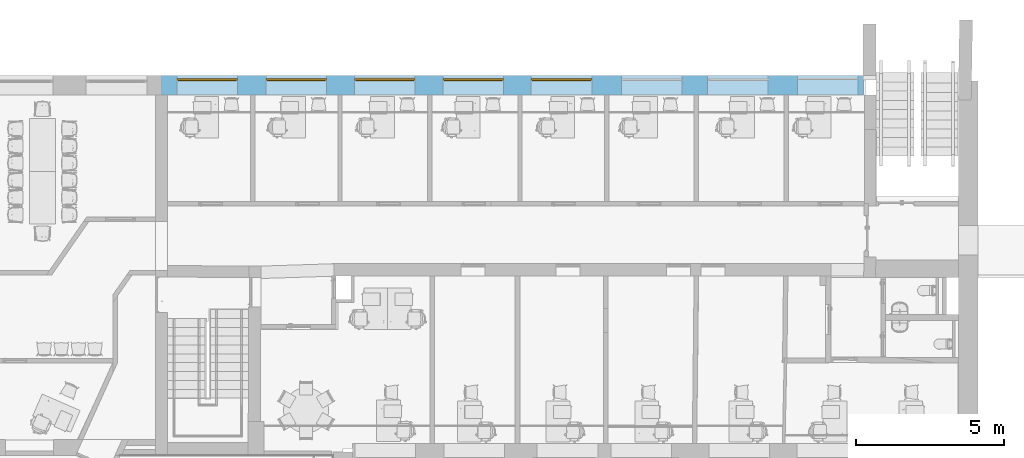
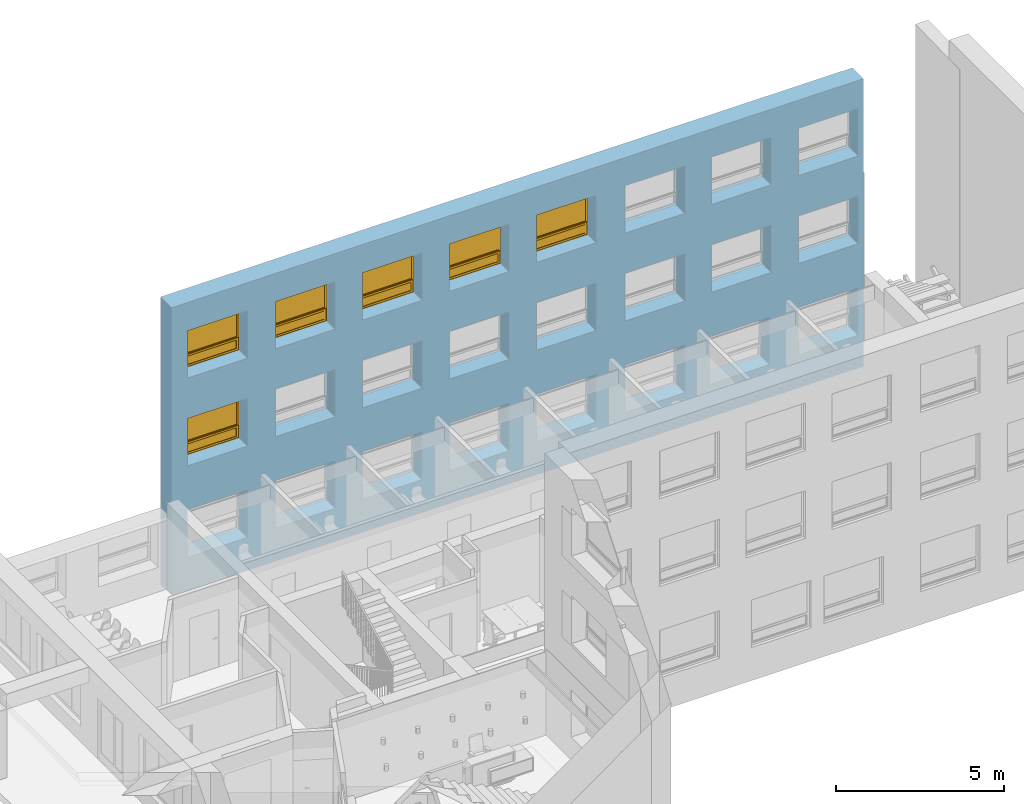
"""IFC2X3 building model written with IfcOpenShell, lengths in millimetres."""

from ifc_helpers import new_model, entity, si_unit, converted_unit, derived_unit, direction, frame, frame_2d, origin, place, context, subcontext, project, spatial, rectangle, extrude, faceted_brep, source, transform, mapped, material, material_list, layer, layer_set, layer_usage, type_object, type_shapes, element, fill, save


model = new_model("IFC2X3")

# Units and contexts
model_context = context("Model", 3, precision=0.01, world=origin(), true_north=direction((6.12303176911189e-17, 1.0)))
context_of_model = context(None, 3, precision=0.01, world=origin(), true_north=direction((6.12303176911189e-17, 1.0)))
body_context = subcontext(model_context, "Body", "Model", "MODEL_VIEW")
ifc_project = project(units=[si_unit("LENGTHUNIT", "METRE", prefix="MILLI"), si_unit("AREAUNIT", "SQUARE_METRE"), si_unit("VOLUMEUNIT", "CUBIC_METRE"), converted_unit("PLANEANGLEUNIT", "DEGREE", entity("IfcRatioMeasure", 0.0174532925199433), si_unit("PLANEANGLEUNIT", "RADIAN"), dimensions=[0, 0, 0, 0, 0, 0, 0]), si_unit("MASSUNIT", "GRAM", prefix="KILO"), derived_unit("MASSDENSITYUNIT", [(si_unit("MASSUNIT", "GRAM", prefix="KILO"), 1), (si_unit("LENGTHUNIT", "METRE"), -3)]), si_unit("TIMEUNIT", "SECOND"), si_unit("FREQUENCYUNIT", "HERTZ"), si_unit("THERMODYNAMICTEMPERATUREUNIT", "DEGREE_CELSIUS"), derived_unit("THERMALTRANSMITTANCEUNIT", [(si_unit("MASSUNIT", "GRAM", prefix="KILO"), 1), (si_unit("THERMODYNAMICTEMPERATUREUNIT", "KELVIN"), -1), (si_unit("TIMEUNIT", "SECOND"), -3)]), derived_unit("VOLUMETRICFLOWRATEUNIT", [(si_unit("LENGTHUNIT", "METRE"), 3), (si_unit("TIMEUNIT", "SECOND"), -1)]), si_unit("ELECTRICCURRENTUNIT", "AMPERE"), si_unit("ELECTRICVOLTAGEUNIT", "VOLT"), si_unit("POWERUNIT", "WATT"), si_unit("FORCEUNIT", "NEWTON", prefix="KILO"), si_unit("ILLUMINANCEUNIT", "LUX"), si_unit("LUMINOUSFLUXUNIT", "LUMEN"), si_unit("LUMINOUSINTENSITYUNIT", "CANDELA"), derived_unit("USERDEFINED", [(si_unit("MASSUNIT", "GRAM", prefix="KILO"), -1), (si_unit("LENGTHUNIT", "METRE"), -2), (si_unit("TIMEUNIT", "SECOND"), 3), (si_unit("LUMINOUSFLUXUNIT", "LUMEN"), 1)]), derived_unit("LINEARVELOCITYUNIT", [(si_unit("LENGTHUNIT", "METRE"), 1), (si_unit("TIMEUNIT", "SECOND"), -1)]), si_unit("PRESSUREUNIT", "PASCAL"), derived_unit("USERDEFINED", [(si_unit("LENGTHUNIT", "METRE"), -2), (si_unit("MASSUNIT", "GRAM", prefix="KILO"), 1), (si_unit("TIMEUNIT", "SECOND"), -2)])], contexts=[model_context, context_of_model])

# Site, building, storey
site_placement = place(None, frame((121442.264707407, 135347.995453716, -1800.0)))
site = spatial("IfcSite", under=ifc_project, at=site_placement, Name="Surface", CompositionType="ELEMENT")
building_placement = place(site_placement, origin())
building = spatial("IfcBuilding", under=site, at=building_placement, CompositionType="ELEMENT")
storey_1_placement = place(building_placement, frame((0.0, 0.0, 1800.0)))
storey_1 = spatial("IfcBuildingStorey", under=building, at=storey_1_placement, Name="1 korrus", CompositionType="ELEMENT", Elevation=1800.00000000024)

# Wall, openings
ifc_material_1 = material(Name="Plaster")
ifc_layer_1 = layer(ifc_material_1, 10.0)
ifc_material_2 = material(Name="Polystyrene")
ifc_layer_2 = layer(ifc_material_2, 150.0)
ifc_material_3 = material(Name="__Betoonelement")
ifc_layer_3 = layer(ifc_material_3, 500.0)
ifc_layer_set = layer_set([ifc_layer_1, ifc_layer_2, ifc_layer_3], Name="Basic Wall:Olemasolev Soojustatud Välissein")
ifc_layer_usage = layer_usage(ifc_layer_set, "AXIS2", "POSITIVE", -330.0)
wall_type = type_object("IfcWallType", Name="Basic Wall:Olemasolev Soojustatud Välissein", PredefinedType="STANDARD", material=ifc_layer_set)
wall_placement = place(storey_1_placement, frame((-85315.1914993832, -115011.919112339, -300.0), z_axis=(0.0, 0.0, 1.0), x_axis=(-1.0, 0.0, 0.0)))
wall = element("IfcWallStandardCase", 1, at=wall_placement, inside=storey_1, type_object=wall_type, material=ifc_layer_usage, Name="Basic Wall:Olemasolev Soojustatud Välissein", ObjectType="Basic Wall:Olemasolev Soojustatud Välissein", context=body_context, shape_type="SweptSolid", body=[
    extrude(rectangle(XDim=23782.0031187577, YDim=660.000000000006, at=frame_2d((12319.7873212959, -8.66862137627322e-12), x_axis=(-1.0, 0.0))), origin(), (0.0, 0.0, 1.0), 10460.0),
])
opening_1_placement = place(wall_placement, origin())
element("IfcOpeningElement", 2, at=opening_1_placement, cuts=wall, Name="Basic Wall:Olemasolev Soojustatud Välissein", ObjectType="Opening", context=body_context, shape_type="SweptSolid", body=[
    extrude(rectangle(XDim=1600.0, YDim=2050.0, at=frame_2d((-8.64019966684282e-12, 2.27373675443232e-13), x_axis=(0.0, 1.0))), frame((25702.8256414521, -1184.0, 2000.0), z_axis=(0.0, 1.0, 0.0), x_axis=(-1.0, 0.0, 0.0)), (0.0, 0.0, 1.0), 3048.0),
])
opening_2_placement = place(wall_placement, frame((23657.8256414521, 330.0, 1200.0)))
element("IfcOpeningElement", 3, at=opening_2_placement, cuts=wall, Name="sma_W2:A-1* 2050 x 1730mm Avatav:1", ObjectType="Opening", context=body_context, shape_type="SweptSolid", body=[
    extrude(rectangle(XDim=1730.0, YDim=2050.0, at=frame_2d((865.0, 1025.0), x_axis=(1.0, 0.0))), frame((0.0, 0.0, 0.0), z_axis=(0.0, -1.0, 0.0), x_axis=(0.0, 0.0, 1.0)), (0.0, 0.0, 1.0), 660.0),
])
opening_3_placement = place(wall_placement, frame((17649.9096963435, 330.0, 1200.0)))
element("IfcOpeningElement", 4, at=opening_3_placement, cuts=wall, Name="sma_W2:A-1* 2050 x 1730mm Avatav:1", ObjectType="Opening", context=body_context, shape_type="SweptSolid", body=[
    extrude(rectangle(XDim=1730.0, YDim=2050.0, at=frame_2d((865.0, 1025.0), x_axis=(1.0, 0.0))), frame((0.0, 0.0, 0.0), z_axis=(0.0, -1.0, 0.0), x_axis=(0.0, 0.0, 1.0)), (0.0, 0.0, 1.0), 660.0),
])
opening_4_placement = place(wall_placement, frame((20639.9096963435, 330.0, 1200.0)))
element("IfcOpeningElement", 5, at=opening_4_placement, cuts=wall, Name="sma_W2:A-1* 2050 x 1730mm Avatav:1", ObjectType="Opening", context=body_context, shape_type="SweptSolid", body=[
    extrude(rectangle(XDim=1730.0, YDim=2050.0, at=frame_2d((865.0, 1025.0), x_axis=(1.0, 0.0))), frame((0.0, 0.0, 0.0), z_axis=(0.0, -1.0, 0.0), x_axis=(0.0, 0.0, 1.0)), (0.0, 0.0, 1.0), 660.0),
])
opening_5_placement = place(wall_placement, frame((2659.90969634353, 330.0, 1200.0)))
element("IfcOpeningElement", 6, at=opening_5_placement, cuts=wall, Name="sma_W2:A-1* 2050 x 1730mm Avatav:1", ObjectType="Opening", context=body_context, shape_type="SweptSolid", body=[
    extrude(rectangle(XDim=1730.0, YDim=2050.0, at=frame_2d((865.0, 1025.0), x_axis=(1.0, 0.0))), frame((0.0, 0.0, 0.0), z_axis=(0.0, -1.0, 0.0), x_axis=(0.0, 0.0, 1.0)), (0.0, 0.0, 1.0), 660.0),
])
opening_6_placement = place(wall_placement, frame((5712.82564145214, 330.0, 1200.0)))
element("IfcOpeningElement", 7, at=opening_6_placement, cuts=wall, Name="sma_W2:A-1* 2050 x 1730mm Avatav:1", ObjectType="Opening", context=body_context, shape_type="SweptSolid", body=[
    extrude(rectangle(XDim=1730.0, YDim=2050.0, at=frame_2d((865.0, 1025.0), x_axis=(1.0, 0.0))), frame((0.0, 0.0, 0.0), z_axis=(0.0, -1.0, 0.0), x_axis=(0.0, 0.0, 1.0)), (0.0, 0.0, 1.0), 660.0),
])
opening_7_placement = place(wall_placement, frame((8619.90969634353, 330.0, 1200.0)))
element("IfcOpeningElement", 8, at=opening_7_placement, cuts=wall, Name="sma_W2:A-1* 2050 x 1730mm Avatav:1", ObjectType="Opening", context=body_context, shape_type="SweptSolid", body=[
    extrude(rectangle(XDim=1730.0, YDim=2050.0, at=frame_2d((865.0, 1025.0), x_axis=(1.0, 0.0))), frame((0.0, 0.0, 0.0), z_axis=(0.0, -1.0, 0.0), x_axis=(0.0, 0.0, 1.0)), (0.0, 0.0, 1.0), 660.0),
])
opening_8_placement = place(wall_placement, frame((11669.9096963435, 330.0, 1200.0)))
element("IfcOpeningElement", 9, at=opening_8_placement, cuts=wall, Name="sma_W2:A-1* 2050 x 1730mm Avatav:1", ObjectType="Opening", context=body_context, shape_type="SweptSolid", body=[
    extrude(rectangle(XDim=1730.0, YDim=2050.0, at=frame_2d((865.0, 1025.0), x_axis=(1.0, 0.0))), frame((0.0, 0.0, 0.0), z_axis=(0.0, -1.0, 0.0), x_axis=(0.0, 0.0, 1.0)), (0.0, 0.0, 1.0), 660.0),
])
opening_9_placement = place(wall_placement, frame((14659.9096963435, 330.0, 1200.0)))
element("IfcOpeningElement", 10, at=opening_9_placement, cuts=wall, Name="sma_W2:A-1* 2050 x 1730mm Avatav:1", ObjectType="Opening", context=body_context, shape_type="SweptSolid", body=[
    extrude(rectangle(XDim=1730.0, YDim=2050.0, at=frame_2d((865.0, 1025.0), x_axis=(1.0, 0.0))), frame((0.0, 0.0, 0.0), z_axis=(0.0, -1.0, 0.0), x_axis=(0.0, 0.0, 1.0)), (0.0, 0.0, 1.0), 660.0),
])
opening_10_placement = place(wall_placement, frame((2659.90969634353, 330.0, 4525.0)))
element("IfcOpeningElement", 11, at=opening_10_placement, cuts=wall, Name="sma_W2:A-1* 2050 x 1730mm Avatav:1", ObjectType="Opening", context=body_context, shape_type="SweptSolid", body=[
    extrude(rectangle(XDim=1730.0, YDim=2050.0, at=frame_2d((865.0, 1025.0), x_axis=(1.0, 0.0))), frame((0.0, 0.0, 0.0), z_axis=(0.0, -1.0, 0.0), x_axis=(0.0, 0.0, 1.0)), (0.0, 0.0, 1.0), 660.0),
])
opening_11_placement = place(wall_placement, frame((5649.90969634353, 330.0, 4525.0)))
element("IfcOpeningElement", 12, at=opening_11_placement, cuts=wall, Name="sma_W2:A-1* 2050 x 1730mm Avatav:1", ObjectType="Opening", context=body_context, shape_type="SweptSolid", body=[
    extrude(rectangle(XDim=1730.0, YDim=2050.0, at=frame_2d((865.0, 1025.0), x_axis=(1.0, 0.0))), frame((0.0, 0.0, 0.0), z_axis=(0.0, -1.0, 0.0), x_axis=(0.0, 0.0, 1.0)), (0.0, 0.0, 1.0), 660.0),
])
opening_12_placement = place(wall_placement, frame((8619.90969634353, 330.0, 4525.0)))
element("IfcOpeningElement", 13, at=opening_12_placement, cuts=wall, Name="sma_W2:A-1* 2050 x 1730mm Avatav:1", ObjectType="Opening", context=body_context, shape_type="SweptSolid", body=[
    extrude(rectangle(XDim=1730.0, YDim=2050.0, at=frame_2d((865.0, 1025.0), x_axis=(1.0, 0.0))), frame((0.0, 0.0, 0.0), z_axis=(0.0, -1.0, 0.0), x_axis=(0.0, 0.0, 1.0)), (0.0, 0.0, 1.0), 660.0),
])
opening_13_placement = place(wall_placement, frame((11669.9096963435, 330.0, 4525.0)))
element("IfcOpeningElement", 14, at=opening_13_placement, cuts=wall, Name="sma_W2:A-1* 2050 x 1730mm Avatav:1", ObjectType="Opening", context=body_context, shape_type="SweptSolid", body=[
    extrude(rectangle(XDim=1730.0, YDim=2050.0, at=frame_2d((865.0, 1025.0), x_axis=(1.0, 0.0))), frame((0.0, 0.0, 0.0), z_axis=(0.0, -1.0, 0.0), x_axis=(0.0, 0.0, 1.0)), (0.0, 0.0, 1.0), 660.0),
])
opening_14_placement = place(wall_placement, frame((14659.9096963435, 330.0, 4525.0)))
element("IfcOpeningElement", 15, at=opening_14_placement, cuts=wall, Name="sma_W2:A-1* 2050 x 1730mm Avatav:1", ObjectType="Opening", context=body_context, shape_type="SweptSolid", body=[
    extrude(rectangle(XDim=1730.0, YDim=2050.0, at=frame_2d((865.0, 1025.0), x_axis=(1.0, 0.0))), frame((0.0, 0.0, 0.0), z_axis=(0.0, -1.0, 0.0), x_axis=(0.0, 0.0, 1.0)), (0.0, 0.0, 1.0), 660.0),
])
opening_15_placement = place(wall_placement, frame((17649.9096963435, 330.0, 4525.0)))
element("IfcOpeningElement", 16, at=opening_15_placement, cuts=wall, Name="sma_W2:A-1* 2050 x 1730mm Avatav:1", ObjectType="Opening", context=body_context, shape_type="SweptSolid", body=[
    extrude(rectangle(XDim=1730.0, YDim=2050.0, at=frame_2d((865.0, 1025.0), x_axis=(1.0, 0.0))), frame((0.0, 0.0, 0.0), z_axis=(0.0, -1.0, 0.0), x_axis=(0.0, 0.0, 1.0)), (0.0, 0.0, 1.0), 660.0),
])
opening_16_placement = place(wall_placement, frame((20639.9096963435, 330.0, 4525.0)))
element("IfcOpeningElement", 17, at=opening_16_placement, cuts=wall, Name="sma_W2:A-1* 2050 x 1730mm Avatav:1", ObjectType="Opening", context=body_context, shape_type="SweptSolid", body=[
    extrude(rectangle(XDim=1730.0, YDim=2050.0, at=frame_2d((865.0, 1025.0), x_axis=(1.0, 0.0))), frame((0.0, 0.0, 0.0), z_axis=(0.0, -1.0, 0.0), x_axis=(0.0, 0.0, 1.0)), (0.0, 0.0, 1.0), 660.0),
])
opening_17_placement = place(wall_placement, frame((2659.90969634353, 330.0, 7715.0)))
element("IfcOpeningElement", 18, at=opening_17_placement, cuts=wall, Name="sma_W2:A-1* 2050 x 1730mm Avatav:1", ObjectType="Opening", context=body_context, shape_type="SweptSolid", body=[
    extrude(rectangle(XDim=1730.0, YDim=2050.0, at=frame_2d((865.0, 1025.0), x_axis=(1.0, 0.0))), frame((0.0, 0.0, 0.0), z_axis=(0.0, -1.0, 0.0), x_axis=(0.0, 0.0, 1.0)), (0.0, 0.0, 1.0), 660.0),
])
opening_18_placement = place(wall_placement, frame((5649.90969634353, 330.0, 7715.0)))
element("IfcOpeningElement", 19, at=opening_18_placement, cuts=wall, Name="sma_W2:A-1* 2050 x 1730mm Avatav:1", ObjectType="Opening", context=body_context, shape_type="SweptSolid", body=[
    extrude(rectangle(XDim=1730.0, YDim=2050.0, at=frame_2d((865.0, 1025.0), x_axis=(1.0, 0.0))), frame((0.0, 0.0, 0.0), z_axis=(0.0, -1.0, 0.0), x_axis=(0.0, 0.0, 1.0)), (0.0, 0.0, 1.0), 660.0),
])
opening_19_placement = place(wall_placement, frame((8619.90969634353, 330.0, 7715.0)))
element("IfcOpeningElement", 20, at=opening_19_placement, cuts=wall, Name="sma_W2:A-1* 2050 x 1730mm Avatav:1", ObjectType="Opening", context=body_context, shape_type="SweptSolid", body=[
    extrude(rectangle(XDim=1730.0, YDim=2050.0, at=frame_2d((865.0, 1025.0), x_axis=(1.0, 0.0))), frame((0.0, 0.0, 0.0), z_axis=(0.0, -1.0, 0.0), x_axis=(0.0, 0.0, 1.0)), (0.0, 0.0, 1.0), 660.0),
])
opening_20_placement = place(wall_placement, frame((11669.9096963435, 330.0, 7715.0)))
opening_20 = element("IfcOpeningElement", 21, at=opening_20_placement, cuts=wall, Name="sma_W2:A-1* 2050 x 1730mm Avatav:1", ObjectType="Opening", context=body_context, shape_type="SweptSolid", body=[
    extrude(rectangle(XDim=1730.0, YDim=2050.0, at=frame_2d((865.0, 1025.0), x_axis=(1.0, 0.0))), frame((0.0, 0.0, 0.0), z_axis=(0.0, -1.0, 0.0), x_axis=(0.0, 0.0, 1.0)), (0.0, 0.0, 1.0), 660.0),
])
opening_21_placement = place(wall_placement, frame((14659.9096963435, 330.0, 7715.0)))
opening_21 = element("IfcOpeningElement", 22, at=opening_21_placement, cuts=wall, Name="sma_W2:A-1* 2050 x 1730mm Avatav:1", ObjectType="Opening", context=body_context, shape_type="SweptSolid", body=[
    extrude(rectangle(XDim=1730.0, YDim=2050.0, at=frame_2d((865.0, 1025.0), x_axis=(1.0, 0.0))), frame((0.0, 0.0, 0.0), z_axis=(0.0, -1.0, 0.0), x_axis=(0.0, 0.0, 1.0)), (0.0, 0.0, 1.0), 660.0),
])
opening_22_placement = place(wall_placement, frame((17649.9096963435, 330.0, 7715.0)))
opening_22 = element("IfcOpeningElement", 23, at=opening_22_placement, cuts=wall, Name="sma_W2:A-1* 2050 x 1730mm Avatav:1", ObjectType="Opening", context=body_context, shape_type="SweptSolid", body=[
    extrude(rectangle(XDim=1730.0, YDim=2050.0, at=frame_2d((865.0, 1025.0), x_axis=(1.0, 0.0))), frame((0.0, 0.0, 0.0), z_axis=(0.0, -1.0, 0.0), x_axis=(0.0, 0.0, 1.0)), (0.0, 0.0, 1.0), 660.0),
])
opening_23_placement = place(wall_placement, frame((20639.9096963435, 330.0, 7715.0)))
opening_23 = element("IfcOpeningElement", 24, at=opening_23_placement, cuts=wall, Name="sma_W2:A-1* 2050 x 1730mm Avatav:1", ObjectType="Opening", context=body_context, shape_type="SweptSolid", body=[
    extrude(rectangle(XDim=1730.0, YDim=2050.0, at=frame_2d((865.0, 1025.0), x_axis=(1.0, 0.0))), frame((0.0, 0.0, 0.0), z_axis=(0.0, -1.0, 0.0), x_axis=(0.0, 0.0, 1.0)), (0.0, 0.0, 1.0), 660.0),
])
opening_24_placement = place(wall_placement, frame((23657.8256414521, 330.0, 4525.0)))
opening_24 = element("IfcOpeningElement", 25, at=opening_24_placement, cuts=wall, Name="sma_W2:A-1* 2050 x 1730mm Avatav:1", ObjectType="Opening", context=body_context, shape_type="SweptSolid", body=[
    extrude(rectangle(XDim=1730.0, YDim=2050.0, at=frame_2d((865.0, 1025.0), x_axis=(1.0, 0.0))), frame((0.0, 0.0, 0.0), z_axis=(0.0, -1.0, 0.0), x_axis=(0.0, 0.0, 1.0)), (0.0, 0.0, 1.0), 660.0),
])
opening_25_placement = place(wall_placement, frame((23657.8256414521, 330.0, 7715.0)))
opening_25 = element("IfcOpeningElement", 26, at=opening_25_placement, cuts=wall, Name="sma_W2:A-1* 2050 x 1730mm Avatav:1", ObjectType="Opening", context=body_context, shape_type="SweptSolid", body=[
    extrude(rectangle(XDim=1730.0, YDim=2050.0, at=frame_2d((865.0, 1025.0), x_axis=(1.0, 0.0))), frame((0.0, 0.0, 0.0), z_axis=(0.0, -1.0, 0.0), x_axis=(0.0, 0.0, 1.0)), (0.0, 0.0, 1.0), 660.0),
])

# Storey
storey_2_placement = place(building_placement, frame((0.0, 0.0, 8315.0)))
storey_2 = spatial("IfcBuildingStorey", under=building, at=storey_2_placement, Name="3 korrus", CompositionType="ELEMENT", Elevation=8315.00000000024)

# Window
ifc_material_4 = material(Name="PVC")
ifc_material_5 = material(Name="Glass")
ifc_material_list_1 = material_list([ifc_material_4, ifc_material_5])
ifc_material_list_2 = material_list([ifc_material_4, ifc_material_5])
window_style = type_object("IfcWindowStyle", Name="A-1* 2050 x 1730mm Avatav", ConstructionType="OTHER_CONSTRUCTION", OperationType="NOTDEFINED", ParameterTakesPrecedence=False, Sizeable=False, material=ifc_material_list_2)
shared_shape = source(origin(), body_context, "Body", "Brep", [
    faceted_brep([(0.0, 499.759876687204, 0.0), (2050.0, 499.759876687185, 0.0), (2050.0, 499.759876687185, 1730.0), (0.0, 499.759876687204, 1730.0), (35.0, 499.759876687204, 35.0), (35.0, 499.759876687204, 480.0), (2015.0, 499.759876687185, 480.0), (2015.0, 499.759876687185, 35.0), (1980.0, 499.759876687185, 515.0), (70.0, 499.759876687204, 515.0), (70.0, 499.759876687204, 1660.0), (1980.0, 499.759876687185, 1660.0), (0.0, 549.759876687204, 0.0), (2050.0, 549.759876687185, 0.0), (2050.0, 549.759876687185, 1730.0), (0.0, 549.759876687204, 1730.0), (35.0, 524.759876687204, 35.0), (35.0, 524.759876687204, 480.0), (2015.0, 524.759876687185, 480.0), (2015.0, 524.759876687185, 35.0), (70.0, 549.759876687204, 70.0), (1980.0, 549.759876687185, 70.0), (1980.0, 549.759876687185, 445.0), (70.0, 549.759876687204, 445.0), (1980.0, 549.759876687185, 515.0), (1980.0, 549.759876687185, 1660.0), (70.0, 549.759876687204, 1660.0), (70.0, 549.759876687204, 515.0), (70.0, 524.759876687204, 70.0), (1980.0, 524.759876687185, 70.0), (1980.0, 524.759876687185, 445.0), (70.0, 524.759876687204, 445.0)], [[[0, 1, 2, 3], [4, 5, 6, 7], [8, 9, 10, 11]], [[1, 0, 12, 13]], [[2, 1, 13, 14]], [[0, 3, 15, 12]], [[16, 17, 5, 4]], [[17, 18, 6, 5]], [[18, 19, 7, 6]], [[19, 16, 4, 7]], [[12, 15, 14, 13], [20, 21, 22, 23], [24, 25, 26, 27]], [[21, 20, 28, 29]], [[22, 21, 29, 30]], [[23, 22, 30, 31]], [[20, 23, 31, 28]], [[17, 16, 19, 18], [28, 31, 30, 29]], [[3, 2, 14, 15]], [[10, 9, 27, 26]], [[11, 10, 26, 25]], [[8, 11, 25, 24]], [[9, 8, 24, 27]]]),
    faceted_brep([(105.0, 489.759876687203, 105.0), (1945.0, 489.759876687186, 105.0), (1945.0, 489.759876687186, 410.0), (105.0, 489.759876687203, 410.0), (105.0, 509.759876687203, 105.0), (105.0, 509.759876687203, 410.0), (1945.0, 509.759876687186, 410.0), (1945.0, 509.759876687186, 105.0)], [[[0, 1, 2, 3]], [[4, 5, 6, 7]], [[1, 0, 4, 7]], [[2, 1, 7, 6]], [[3, 2, 6, 5]], [[0, 3, 5, 4]]]),
    faceted_brep([(35.0, 474.759876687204, 35.0), (2015.0, 474.759876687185, 35.0), (2015.0, 474.759876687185, 480.0), (35.0, 474.759876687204, 480.0), (105.0, 474.759876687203, 105.0), (105.0, 474.759876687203, 410.0), (1945.0, 474.759876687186, 410.0), (1945.0, 474.759876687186, 105.0), (35.0, 524.759876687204, 35.0), (35.0, 524.759876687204, 480.0), (2015.0, 524.759876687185, 480.0), (2015.0, 524.759876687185, 35.0), (105.0, 524.759876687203, 105.0), (1945.0, 524.759876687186, 105.0), (1945.0, 524.759876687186, 410.0), (105.0, 524.759876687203, 410.0)], [[[0, 1, 2, 3], [4, 5, 6, 7]], [[8, 9, 10, 11], [12, 13, 14, 15]], [[1, 0, 8, 11]], [[2, 1, 11, 10]], [[3, 2, 10, 9]], [[0, 3, 9, 8]], [[5, 4, 12, 15]], [[6, 5, 15, 14]], [[7, 6, 14, 13]], [[4, 7, 13, 12]]]),
    faceted_brep([(70.0, 514.759876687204, 515.0), (1980.0, 514.759876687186, 515.0), (1980.0, 514.759876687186, 1660.0), (70.0, 514.759876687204, 1660.0), (1980.0, 534.759876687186, 515.0), (1980.0, 534.759876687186, 1660.0), (70.0, 534.759876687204, 1660.0), (70.0, 534.759876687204, 515.0)], [[[0, 1, 2, 3]], [[2, 1, 4, 5]], [[3, 2, 5, 6]], [[0, 3, 6, 7]], [[7, 6, 5, 4]], [[1, 0, 7, 4]]]),
])
type_shapes(window_style, [shared_shape])
window_1_placement = place(opening_20_placement, frame((0.0, 0.0, 0.0), z_axis=(0.0, 0.0, 1.0), x_axis=(-1.0, 0.0, 0.0)))
window_1 = element("IfcWindow", 27, at=window_1_placement, inside=storey_2, type_object=window_style, material=ifc_material_list_1, Name="sma_W2:A-1* 2050 x 1730mm Avatav", ObjectType="A-1* 2050 x 1730mm Avatav", OverallHeight=1730.0, OverallWidth=2050.0, context=body_context, shape_type="MappedRepresentation", body=[
    mapped(shared_shape, transform((0.0, 0.0, 0.0), scale=1.0)),
])

fill(opening_20, window_1)

ifc_material_list_3 = material_list([ifc_material_4, ifc_material_5])
window_2_placement = place(opening_21_placement, frame((0.0, 0.0, 0.0), z_axis=(0.0, 0.0, 1.0), x_axis=(-1.0, 0.0, 0.0)))
window_2 = element("IfcWindow", 28, at=window_2_placement, inside=storey_2, type_object=window_style, material=ifc_material_list_3, Name="sma_W2:A-1* 2050 x 1730mm Avatav", ObjectType="A-1* 2050 x 1730mm Avatav", OverallHeight=1730.0, OverallWidth=2050.0, context=body_context, shape_type="MappedRepresentation", body=[
    mapped(shared_shape, transform((0.0, 0.0, 0.0), scale=1.0)),
])

fill(opening_21, window_2)

ifc_material_list_4 = material_list([ifc_material_4, ifc_material_5])
window_3_placement = place(opening_22_placement, frame((0.0, 0.0, 0.0), z_axis=(0.0, 0.0, 1.0), x_axis=(-1.0, 0.0, 0.0)))
window_3 = element("IfcWindow", 29, at=window_3_placement, inside=storey_2, type_object=window_style, material=ifc_material_list_4, Name="sma_W2:A-1* 2050 x 1730mm Avatav", ObjectType="A-1* 2050 x 1730mm Avatav", OverallHeight=1730.0, OverallWidth=2050.0, context=body_context, shape_type="MappedRepresentation", body=[
    mapped(shared_shape, transform((0.0, 0.0, 0.0), scale=1.0)),
])

fill(opening_22, window_3)

ifc_material_list_5 = material_list([ifc_material_4, ifc_material_5])
window_4_placement = place(opening_23_placement, frame((0.0, 0.0, 0.0), z_axis=(0.0, 0.0, 1.0), x_axis=(-1.0, 0.0, 0.0)))
window_4 = element("IfcWindow", 30, at=window_4_placement, inside=storey_2, type_object=window_style, material=ifc_material_list_5, Name="sma_W2:A-1* 2050 x 1730mm Avatav", ObjectType="A-1* 2050 x 1730mm Avatav", OverallHeight=1730.0, OverallWidth=2050.0, context=body_context, shape_type="MappedRepresentation", body=[
    mapped(shared_shape, transform((0.0, 0.0, 0.0), scale=1.0)),
])

fill(opening_23, window_4)

# Storey
storey_3_placement = place(building_placement, frame((0.0, 0.0, 5125.0)))
storey_3 = spatial("IfcBuildingStorey", under=building, at=storey_3_placement, Name="2 korrus", CompositionType="ELEMENT", Elevation=5125.00000000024)

# Window
ifc_material_list_6 = material_list([ifc_material_4, ifc_material_5])
window_5_placement = place(opening_24_placement, frame((0.0, 0.0, 0.0), z_axis=(0.0, 0.0, 1.0), x_axis=(-1.0, 0.0, 0.0)))
window_5 = element("IfcWindow", 31, at=window_5_placement, inside=storey_3, type_object=window_style, material=ifc_material_list_6, Name="sma_W2:A-1* 2050 x 1730mm Avatav", ObjectType="A-1* 2050 x 1730mm Avatav", OverallHeight=1730.0, OverallWidth=2050.0, context=body_context, shape_type="MappedRepresentation", body=[
    mapped(shared_shape, transform((0.0, 0.0, 0.0), scale=1.0)),
])

fill(opening_24, window_5)

ifc_material_list_7 = material_list([ifc_material_4, ifc_material_5])
window_6_placement = place(opening_25_placement, frame((0.0, 0.0, 0.0), z_axis=(0.0, 0.0, 1.0), x_axis=(-1.0, 0.0, 0.0)))
window_6 = element("IfcWindow", 32, at=window_6_placement, inside=storey_2, type_object=window_style, material=ifc_material_list_7, Name="sma_W2:A-1* 2050 x 1730mm Avatav", ObjectType="A-1* 2050 x 1730mm Avatav", OverallHeight=1730.0, OverallWidth=2050.0, context=body_context, shape_type="MappedRepresentation", body=[
    mapped(shared_shape, transform((0.0, 0.0, 0.0), scale=1.0)),
])

fill(opening_25, window_6)

save(model, "model.ifc")
